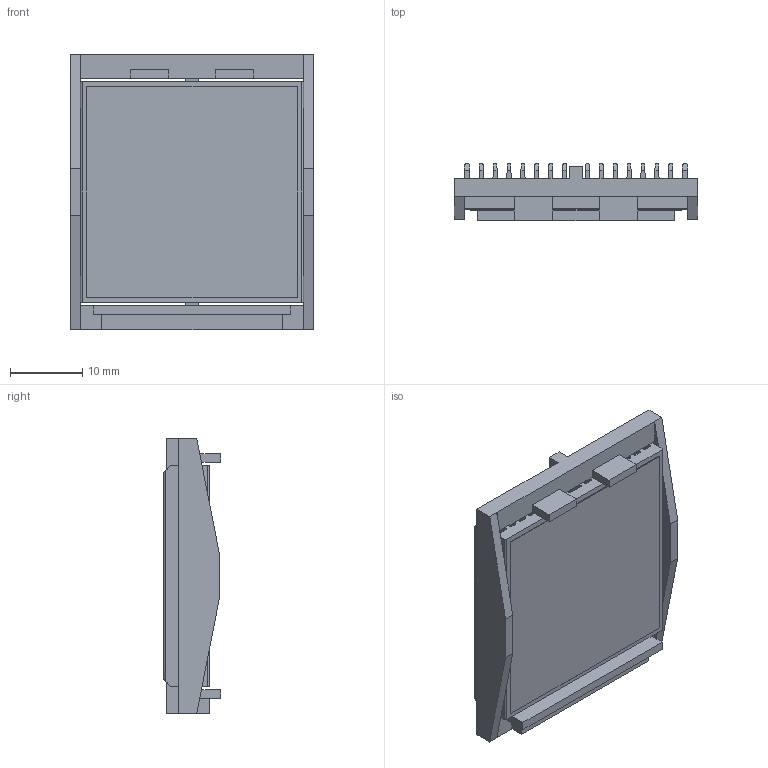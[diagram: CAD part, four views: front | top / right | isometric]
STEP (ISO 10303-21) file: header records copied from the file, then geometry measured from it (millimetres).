
FILE_DESCRIPTION (( 'STEP AP214' ), '1' );
FILE_NAME ('INL31001-6-1.7BU.STEP', '2023-02-22T19:35:48', ( '' ), ( '' ), 'SwSTEP 2.0', 'SolidWorks 2020', '' );
FILE_SCHEMA (( 'AUTOMOTIVE_DESIGN' ));
Length unit declared in the file: millimetre
Products named in the file (1): INL31001-6-1.7BU
Bounding box: 33.6 x 7.9 x 38.1 mm (x, y, z)
Volume: 4438.9 mm3; surface area: 10174.1 mm2
Topology: 3 solids, 3 shells, 184 faces, 536 edges, 356 vertices
Faces by surface type: plane 136, cylinder 48
Entity records: 8092 total; most frequent: CARTESIAN_POINT 1173, ORIENTED_EDGE 1072, DIRECTION 938, EDGE_CURVE 536, LINE 440, VECTOR 440, VERTEX_POINT 356, AXIS2_PLACEMENT_3D 249
